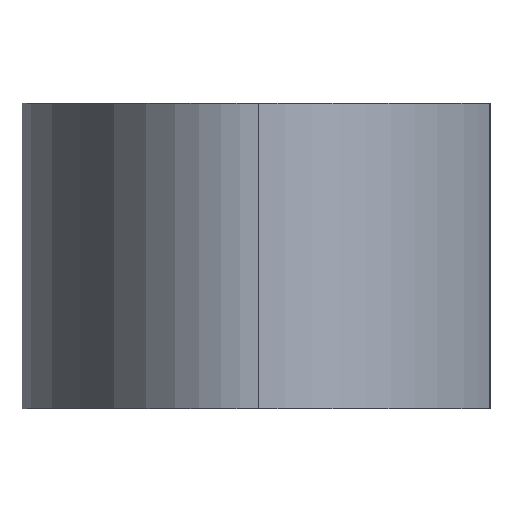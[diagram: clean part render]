
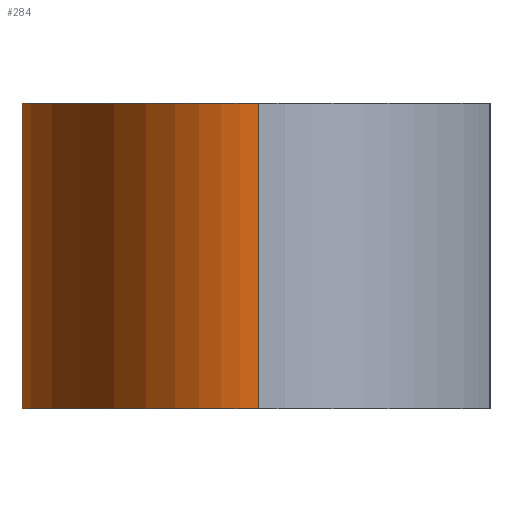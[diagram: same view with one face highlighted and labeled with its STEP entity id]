
A CAD part, left-side view. The second image highlights one B-rep face of the part: STEP entity #284.
In plain terms, the highlighted free-form (B-spline) face has degree [3, 1] with [4, 2] control points.
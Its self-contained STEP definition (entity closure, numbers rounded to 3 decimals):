
#21 = CARTESIAN_POINT ( 'NONE',  ( 45., 0., 0. ) ) ;
#42 = EDGE_LOOP ( 'NONE', ( #68, #871, #846, #184 ) ) ;
#68 = ORIENTED_EDGE ( 'NONE', *, *, #671, .T. ) ;
#71 = CARTESIAN_POINT ( 'NONE',  ( -45., 45., 0. ) ) ;
#77 = CARTESIAN_POINT ( 'NONE',  ( 45., 0., 29. ) ) ;
#88 = CARTESIAN_POINT ( 'NONE',  ( 45., 0., 29. ) ) ;
#102 = CARTESIAN_POINT ( 'NONE',  ( 45., 0., 0. ) ) ;
#184 = ORIENTED_EDGE ( 'NONE', *, *, #341, .T. ) ;
#221 = DIRECTION ( 'NONE',  ( 0., 0., -1. ) ) ;
#225 = CARTESIAN_POINT ( 'NONE',  ( -45., 0., 29. ) ) ;
#242 = VERTEX_POINT ( 'NONE', #21 ) ;
#284 = ADVANCED_FACE ( 'NONE', ( #623 ), #1327, .F. ) ;
#311 = VERTEX_POINT ( 'NONE', #342 ) ;
#316 = CARTESIAN_POINT ( 'NONE',  ( -45., 0., 29. ) ) ;
#329 = CARTESIAN_POINT ( 'NONE',  ( -45., 45., 29. ) ) ;
#341 = EDGE_CURVE ( 'NONE', #687, #242, #1277, .T. ) ;
#342 = CARTESIAN_POINT ( 'NONE',  ( -45., 0., 0. ) ) ;
#391 = CARTESIAN_POINT ( 'NONE',  ( -45., 0., 0. ) ) ;
#414 = CARTESIAN_POINT ( 'NONE',  ( -45., 45., 29. ) ) ;
#518 = CARTESIAN_POINT ( 'NONE',  ( 45., 45., 0. ) ) ;
#519 =( BOUNDED_CURVE ( )  B_SPLINE_CURVE ( 3, ( #88, #1023, #414, #1007 ),
 .UNSPECIFIED., .F., .F. ) 
 B_SPLINE_CURVE_WITH_KNOTS ( ( 4, 4 ),
 ( 0., 3.142 ),
 .UNSPECIFIED. ) 
 CURVE ( )  GEOMETRIC_REPRESENTATION_ITEM ( )  RATIONAL_B_SPLINE_CURVE ( ( 1., 0.333, 0.333, 1. ) ) 
 REPRESENTATION_ITEM ( '' )  );
#600 = VECTOR ( 'NONE', #1175, 1000. ) ;
#623 = FACE_OUTER_BOUND ( 'NONE', #42, .T. ) ;
#671 = EDGE_CURVE ( 'NONE', #242, #311, #891, .T. ) ;
#673 = CARTESIAN_POINT ( 'NONE',  ( 45., 0., 0. ) ) ;
#687 = VERTEX_POINT ( 'NONE', #77 ) ;
#725 = CARTESIAN_POINT ( 'NONE',  ( -45., 45., 0. ) ) ;
#727 = LINE ( 'NONE', #225, #1220 ) ;
#832 = EDGE_CURVE ( 'NONE', #1190, #311, #727, .T. ) ;
#846 = ORIENTED_EDGE ( 'NONE', *, *, #1199, .F. ) ;
#849 = CARTESIAN_POINT ( 'NONE',  ( 45., 0., 29. ) ) ;
#871 = ORIENTED_EDGE ( 'NONE', *, *, #832, .F. ) ;
#891 =( BOUNDED_CURVE ( )  B_SPLINE_CURVE ( 3, ( #673, #901, #71, #391 ),
 .UNSPECIFIED., .F., .T. ) 
 B_SPLINE_CURVE_WITH_KNOTS ( ( 4, 4 ),
 ( 0., 3.142 ),
 .UNSPECIFIED. ) 
 CURVE ( )  GEOMETRIC_REPRESENTATION_ITEM ( )  RATIONAL_B_SPLINE_CURVE ( ( 1., 0.333, 0.333, 1. ) ) 
 REPRESENTATION_ITEM ( '' )  );
#901 = CARTESIAN_POINT ( 'NONE',  ( 45., 45., 0. ) ) ;
#938 = CARTESIAN_POINT ( 'NONE',  ( -45., 0., 0. ) ) ;
#1007 = CARTESIAN_POINT ( 'NONE',  ( -45., 0., 29. ) ) ;
#1023 = CARTESIAN_POINT ( 'NONE',  ( 45., 45., 29. ) ) ;
#1152 = CARTESIAN_POINT ( 'NONE',  ( -45., 0., 29. ) ) ;
#1175 = DIRECTION ( 'NONE',  ( 0., 0., -1. ) ) ;
#1190 = VERTEX_POINT ( 'NONE', #316 ) ;
#1199 = EDGE_CURVE ( 'NONE', #687, #1190, #519, .T. ) ;
#1220 = VECTOR ( 'NONE', #221, 1000. ) ;
#1246 = CARTESIAN_POINT ( 'NONE',  ( 45., 45., 29. ) ) ;
#1258 = CARTESIAN_POINT ( 'NONE',  ( 45., 0., 29. ) ) ;
#1277 = LINE ( 'NONE', #849, #600 ) ;
#1327 =( BOUNDED_SURFACE ( )  B_SPLINE_SURFACE ( 3, 1, ( 
 ( #1258, #102 ),
 ( #1246, #518 ),
 ( #329, #725 ),
 ( #1152, #938 ) ),
 .UNSPECIFIED., .F., .F., .T. ) 
 B_SPLINE_SURFACE_WITH_KNOTS ( ( 4, 4 ),
 ( 2, 2 ),
 ( 0., 1. ),
 ( 0., 1. ),
 .UNSPECIFIED. ) 
 GEOMETRIC_REPRESENTATION_ITEM ( )  RATIONAL_B_SPLINE_SURFACE ( (
 ( 1., 1.),
 ( 0.333, 0.333),
 ( 0.333, 0.333),
 ( 1., 1.) ) ) 
 REPRESENTATION_ITEM ( '' )  SURFACE ( )  );
